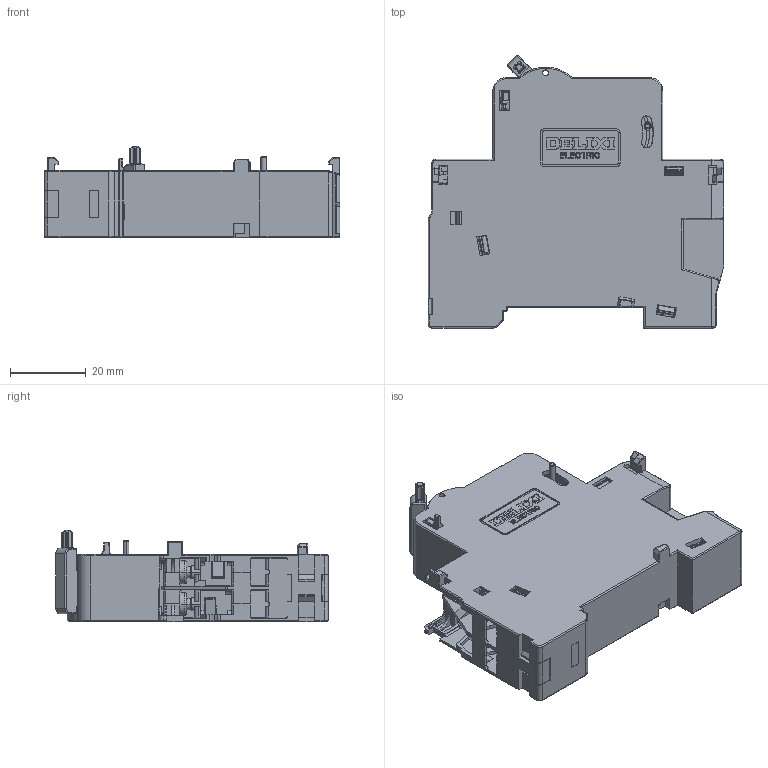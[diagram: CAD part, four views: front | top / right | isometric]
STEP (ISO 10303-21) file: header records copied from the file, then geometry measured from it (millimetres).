
FILE_DESCRIPTION((''),'2;1');
FILE_NAME('2297008100_SW0001','2023-11-07T',('dufeng.zhai'),(''),'PRO/ENGINEER BY PARAMETRIC TECHNOLOGY CORPORATION, 2015440','PRO/ENGINEER BY PARAMETRIC TECHNOLOGY CORPORATION, 2015440','');
FILE_SCHEMA(('CONFIG_CONTROL_DESIGN'));
Products named in the file (1): 2297008100_SW0001
Bounding box: 78 x 71.76 x 24.05 mm (x, y, z)
Volume: 56368 mm3; surface area: 36165 mm2
Topology: 2 solids, 2 shells, 2544 faces, 7179 edges, 4584 vertices
Faces by surface type: plane 1580, cylinder 661, cone 88, torus 63, bspline 59, sphere 50, extrusion 43
Entity records: 87684 total; most frequent: CARTESIAN_POINT 21958, ORIENTED_EDGE 14358, DIRECTION 12947, EDGE_CURVE 7179, VECTOR 5295, LINE 5252, VERTEX_POINT 4584, AXIS2_PLACEMENT_3D 3826
